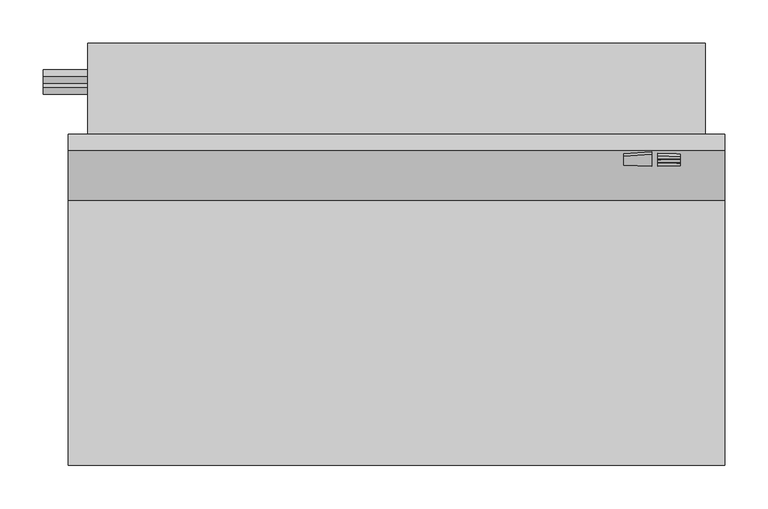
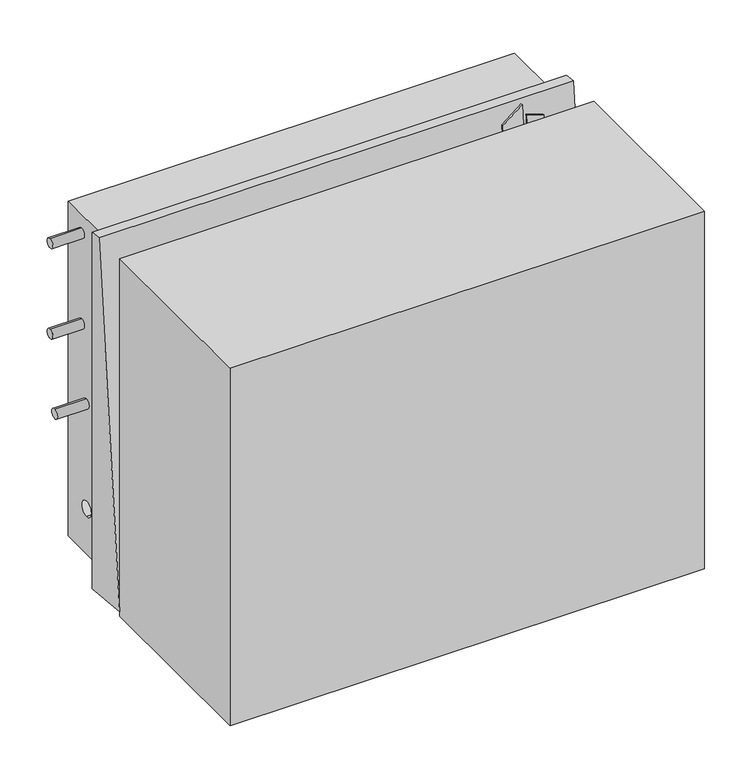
"""IFC4 building model written with IfcOpenShell, lengths in millimetres: proxy geometry, Exposed_Wall_Mounted_Fan_Coil_Unit_-_STY_-_IEC_-_2-Pipe_LH_2022 : Size 03 - 115V/60Hz/1Ph - 2 Row Coil."""

from ifc_helpers import new_model, si_unit, point, frame, frame_2d, origin, origin_with_axes, place, context, project, spatial, polyline, circle_curve, trimmed, segment, composite_curve, outline, extrude, source, transform, mapped, element, save
from ifc_brep_helpers import plane_surface, revolved_surface, advanced_brep


def mechanical_equipment_0fc9f988(model_context):
    return source(origin(), model_context, "Body", "SolidModel", [
        extrude(outline(polyline([(0.0, 0.0), (32.2582589, -104.3275129), (8.3214524, -135.826225), (-33.6762663, 0.0), (0.0, 0.0)])), frame((935.1118862, -375.3885352, 461.2981442), z_axis=(0.0, -0.9953961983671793, 0.09584575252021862), x_axis=(-0.9553727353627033, 0.028313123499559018, 0.2940430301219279)), (0.0, 0.0, 1.0), 3.175),
        extrude(outline(polyline([(-13.857677, -86.9743105), (-3.7871334, -119.543792), (-31.0868387, -119.543792), (-39.7211263, -91.6193542), (-13.857677, -86.9743105)])), frame((935.1118862, -375.3885352, 461.2981442), z_axis=(0.0, -0.9953961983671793, 0.09584575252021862), x_axis=(-0.9553727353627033, 0.028313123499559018, 0.2940430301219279)), (0.0, 0.0, 1.0), 3.175),
        extrude(outline(polyline([(-54.0957717, -45.1298332), (-62.4998666, -17.9498691), (-40.1329933, -1.9964319), (-30.2611188, -33.9233912), (-54.0957717, -45.1298332)])), frame((935.1118862, -375.3885352, 461.2981442), z_axis=(0.0, -0.9953961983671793, 0.09584575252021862), x_axis=(-0.9553727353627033, 0.028313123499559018, 0.2940430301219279)), (0.0, 0.0, 1.0), 3.175),
        extrude(outline(polyline([(-42.4819548, -82.6904665), (-51.6141784, -53.155637), (-27.5065034, -42.8321849), (-16.8904435, -77.1659389), (-42.4819548, -82.6904665)])), frame((935.1118862, -375.3885352, 461.2981442), z_axis=(0.0, -0.9953961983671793, 0.09584575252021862), x_axis=(-0.9553727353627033, 0.028313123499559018, 0.2940430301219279)), (0.0, 0.0, 1.0), 3.175),
        advanced_brep(
        [(1028.7, -342.9, 581.025), (1028.7, -342.9, 17.4625), (1028.7, -238.125, 17.4625), (1028.7, -238.125, 581.025), (317.5, -342.9, 581.025), (317.5, -238.125, 581.025), (317.5, -238.125, 17.4625), (317.5, -342.9, 17.4625), (317.5, -288.925, 80.9625), (317.5, -288.925, 106.3625), (330.2, -288.925, 80.9625), (330.2, -288.925, 106.3625)],
        [
            (0, 1),
            (1, 2),
            (2, 3),
            (3, 0),
            (4, 5),
            (5, 6),
            (6, 7),
            (7, 4),
            (8, 9, circle_curve(frame((317.5, -288.925, 93.6625), z_axis=(1.0, 0.0, 0.0), x_axis=(0.0, 0.0, 1.0)), 12.7)),
            (9, 8, circle_curve(frame((317.5, -288.925, 93.6625), z_axis=(1.0, 0.0, 0.0), x_axis=(0.0, 0.0, 1.0)), 12.7)),
            (0, 4),
            (7, 1),
            (6, 2),
            (5, 3),
            (10, 11, circle_curve(frame((330.2, -288.925, 93.6625), z_axis=(-1.0, 0.0, 0.0), x_axis=(0.0, 0.0, 1.0)), 12.7)),
            (11, 10, circle_curve(frame((330.2, -288.925, 93.6625), z_axis=(-1.0, 0.0, 0.0), x_axis=(0.0, 0.0, 1.0)), 12.7)),
            (11, 9),
            (8, 10),
        ],
        [
            plane_surface(frame((1028.7, -342.9, 581.025), z_axis=(1.0, 0.0, 0.0), x_axis=(0.0, 0.0, -1.0))),
            plane_surface(frame((317.5, -342.9, 581.025), z_axis=(-1.0, 0.0, 0.0), x_axis=(0.0, 0.0, 1.0))),
            plane_surface(frame((1028.7, -342.9, 581.025), z_axis=(0.0, -1.0, 0.0), x_axis=(-1.0, 0.0, 0.0))),
            plane_surface(frame((1028.7, -342.9, 17.4625), z_axis=(0.0, 0.0, -1.0), x_axis=(-1.0, 0.0, 0.0))),
            plane_surface(frame((1028.7, -238.125, 17.4625), z_axis=(0.0, 1.0, 0.0), x_axis=(-1.0, 0.0, 0.0))),
            plane_surface(frame((1028.7, -238.125, 581.025), z_axis=(0.0, 0.0, 1.0), x_axis=(-1.0, 0.0, 0.0))),
            plane_surface(frame((330.2, -288.925, 106.3625), z_axis=(-1.0, 0.0, 0.0), x_axis=(0.0, -1.0, 0.0))),
            revolved_surface(polyline([(330.2, -288.925, 106.3625), (317.5, -288.925, 106.3625)]), (317.5, -288.925, 93.6625), (1.0, 0.0, 0.0)),
        ],
        [
            (0, [[1, 2, 3, 4]]),
            (1, [[5, 6, 7, 8], [9, 10]]),
            (2, [[-1, 11, -8, 12]]),
            (3, [[-2, -12, -7, 13]]),
            (4, [[-3, -13, -6, 14]]),
            (5, [[-4, -14, -5, -11]]),
            (6, [[15, 16]]),
            (7, [[-16, 17, -9, 18]]),
            (7, [[-15, -18, -10, -17]]),
        ],
    ),
        extrude(outline(polyline([(-342.9, 599.8356093), (-342.9, 0.0), (-419.1, 7.3372255), (-361.872985, 601.6625), (-342.9, 599.8356093)])), frame((295.275, 0.0, 0.0), z_axis=(1.0, 0.0, 0.0), x_axis=(0.0, 1.0, 0.0)), (0.0, 0.0, 1.0), 755.65),
        extrude(outline(composite_curve([segment(trimmed(circle_curve(frame_2d((-276.225, 550.8625)), 7.9375), [point((-276.225, 558.8))], [point((-276.225, 542.925))], False, "CARTESIAN"), True, "CONTINUOUS"), segment(trimmed(circle_curve(frame_2d((-276.225, 550.8625)), 7.9375), [point((-276.225, 542.925))], [point((-276.225, 558.8))], False, "CARTESIAN"), True, "CONTINUOUS")], self_intersect=False)), frame((266.7, 0.0, 0.0), z_axis=(1.0, 0.0, 0.0), x_axis=(0.0, 1.0, 0.0)), (0.0, 0.0, 1.0), 50.8),
        extrude(outline(composite_curve([segment(trimmed(circle_curve(frame_2d((-276.225, 398.4625)), 7.9375), [point((-276.225, 406.4))], [point((-276.225, 390.525))], False, "CARTESIAN"), True, "CONTINUOUS"), segment(trimmed(circle_curve(frame_2d((-276.225, 398.4625)), 7.9375), [point((-276.225, 390.525))], [point((-276.225, 406.4))], False, "CARTESIAN"), True, "CONTINUOUS")], self_intersect=False)), frame((266.7, 0.0, 0.0), z_axis=(1.0, 0.0, 0.0), x_axis=(0.0, 1.0, 0.0)), (0.0, 0.0, 1.0), 50.8),
        extrude(outline(composite_curve([segment(trimmed(circle_curve(frame_2d((-288.925, 271.4625)), 7.9375), [point((-288.925, 279.4))], [point((-288.925, 263.525))], False, "CARTESIAN"), True, "CONTINUOUS"), segment(trimmed(circle_curve(frame_2d((-288.925, 271.4625)), 7.9375), [point((-288.925, 263.525))], [point((-288.925, 279.4))], False, "CARTESIAN"), True, "CONTINUOUS")], self_intersect=False)), frame((266.7, 0.0, 0.0), z_axis=(1.0, 0.0, 0.0), x_axis=(0.0, 1.0, 0.0)), (0.0, 0.0, 1.0), 50.8),
        extrude(outline(polyline([(1050.925, -419.1), (1050.925, -723.9), (295.275, -723.9), (295.275, -419.1), (1050.925, -419.1)])), origin_with_axes(), (0.0, 0.0, 1.0), 601.6625),
    ])


if __name__ == "__main__":
    model = new_model("IFC4")
    model_context = context("Model", 3, world=origin())
    ifc_project = project(units=[si_unit("LENGTHUNIT", "METRE", prefix="MILLI")], contexts=[model_context])
    site = spatial("IfcSite", under=ifc_project)
    building = spatial("IfcBuilding", under=site)
    placement = place(None, origin())
    mechanical_equipment_shape = mechanical_equipment_0fc9f988(model_context)
    element("IfcBuildingElementProxy", 1, Name="Exposed_Wall_Mounted_Fan_Coil_Unit_-_STY_-_IEC_-_2-Pipe_LH_2022 : Size 03 - 115V/60Hz/1Ph - 2 Row Coil", ObjectType="Exposed_Wall_Mounted_Fan_Coil_Unit_-_STY_-_IEC_-_2-Pipe_LH_2022 : Size 03 - 115V/60Hz/1Ph - 2 Row Coil", at=placement, inside=building, context=model_context, shape_type="MappedRepresentation", body=[
        mapped(mechanical_equipment_shape, transform((0.0, 0.0, 0.0), x_axis=(1.0, 0.0, 0.0), y_axis=(0.0, 1.0, 0.0), z_axis=(0.0, 0.0, 1.0))),
    ])
    save(model, "model.ifc")
